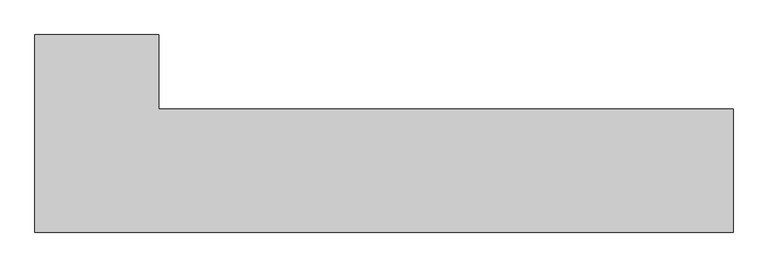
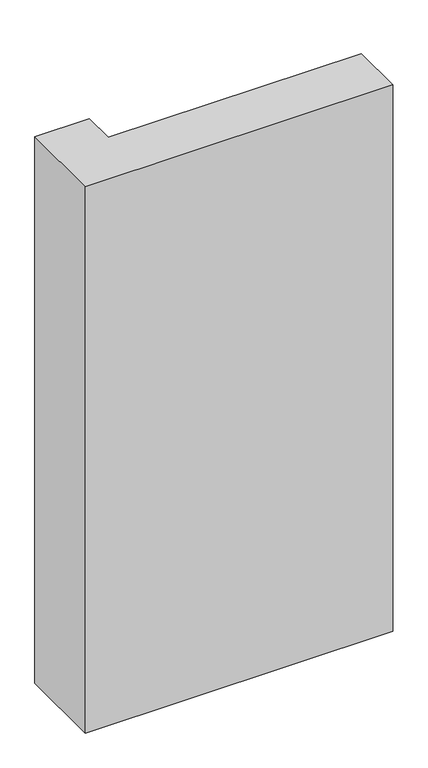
"""IFC4 building model written with IfcOpenShell, lengths in millimetres: column geometry, Columna Estructural Ele : ECO_Ele 40x141x25."""

from ifc_helpers import new_model, si_unit, frame, origin, place, context, project, spatial, polyline, outline, extrude, source, transform, mapped, element, save


def column_2b142d45(model_context):
    return source(origin(), model_context, "Body", "SweptSolid", [
        extrude(outline(polyline([(125.0, 275.0), (125.0, 125.0), (1285.0, 125.0), (1285.0, -125.0), (-125.0, -125.0), (-125.0, 275.0), (125.0, 275.0)])), frame((0.0, 0.0, 13350.0), z_axis=(0.0, 0.0, 1.0), x_axis=(1.0, 0.0, 0.0)), (0.0, 0.0, 1.0), 2650.0),
    ])


if __name__ == "__main__":
    model = new_model("IFC4")
    model_context = context("Model", 3, world=origin())
    ifc_project = project(units=[si_unit("LENGTHUNIT", "METRE", prefix="MILLI")], contexts=[model_context])
    site = spatial("IfcSite", under=ifc_project)
    building = spatial("IfcBuilding", under=site)
    placement = place(None, origin())
    column_shape = column_2b142d45(model_context)
    element("IfcColumn", 1, ObjectType="Columna Estructural Ele : ECO_Ele 40x141x25", at=placement, inside=building, context=model_context, shape_type="MappedRepresentation", body=[
        mapped(column_shape, transform((0.0, 0.0, 0.0), x_axis=(1.0, 0.0, 0.0), y_axis=(0.0, 1.0, 0.0), z_axis=(0.0, 0.0, 1.0))),
    ])
    save(model, "model.ifc")
